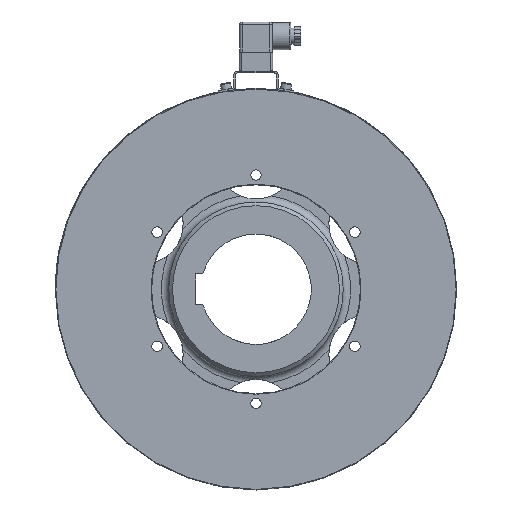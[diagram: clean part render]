
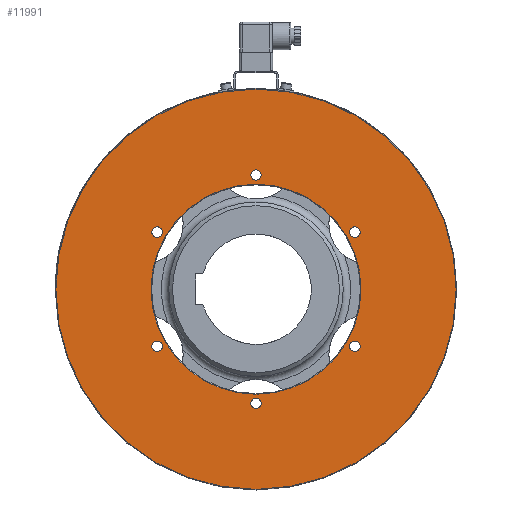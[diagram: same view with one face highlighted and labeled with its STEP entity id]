
A CAD part, left-side view. The second image highlights one B-rep face of the part: STEP entity #11991.
In plain terms, the highlighted planar face has unit normal (-1, 0, 0).
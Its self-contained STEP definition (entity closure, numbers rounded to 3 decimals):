
#151=FACE_BOUND('',#1273,.T.);
#152=FACE_BOUND('',#1274,.T.);
#153=FACE_BOUND('',#1275,.T.);
#154=FACE_BOUND('',#1276,.T.);
#155=FACE_BOUND('',#1277,.T.);
#156=FACE_BOUND('',#1278,.T.);
#157=FACE_BOUND('',#1279,.T.);
#323=PLANE('',#12799);
#627=FACE_OUTER_BOUND('',#1272,.T.);
#1272=EDGE_LOOP('',(#7962,#7963,#7964));
#1273=EDGE_LOOP('',(#7965,#7966));
#1274=EDGE_LOOP('',(#7967,#7968));
#1275=EDGE_LOOP('',(#7969,#7970));
#1276=EDGE_LOOP('',(#7971,#7972));
#1277=EDGE_LOOP('',(#7973,#7974));
#1278=EDGE_LOOP('',(#7975,#7976));
#1279=EDGE_LOOP('',(#7977));
#1957=CIRCLE('',#12563,163.);
#1958=CIRCLE('',#12564,163.);
#2009=CIRCLE('',#12676,163.);
#2100=CIRCLE('',#12773,85.5);
#2103=CIRCLE('',#12778,4.25);
#2104=CIRCLE('',#12779,4.25);
#2105=CIRCLE('',#12781,4.25);
#2106=CIRCLE('',#12782,4.25);
#2107=CIRCLE('',#12784,4.25);
#2108=CIRCLE('',#12785,4.25);
#2109=CIRCLE('',#12787,4.25);
#2110=CIRCLE('',#12788,4.25);
#2111=CIRCLE('',#12790,4.25);
#2112=CIRCLE('',#12791,4.25);
#2113=CIRCLE('',#12793,4.25);
#2114=CIRCLE('',#12794,4.25);
#4367=VERTEX_POINT('',#18381);
#4373=VERTEX_POINT('',#18393);
#4374=VERTEX_POINT('',#18395);
#4585=VERTEX_POINT('',#19141);
#4588=VERTEX_POINT('',#19151);
#4589=VERTEX_POINT('',#19152);
#4590=VERTEX_POINT('',#19157);
#4591=VERTEX_POINT('',#19158);
#4592=VERTEX_POINT('',#19163);
#4593=VERTEX_POINT('',#19164);
#4594=VERTEX_POINT('',#19169);
#4595=VERTEX_POINT('',#19170);
#4596=VERTEX_POINT('',#19175);
#4597=VERTEX_POINT('',#19176);
#4598=VERTEX_POINT('',#19181);
#4599=VERTEX_POINT('',#19182);
#5616=EDGE_CURVE('',#4374,#4373,#1957,.T.);
#5617=EDGE_CURVE('',#4367,#4374,#1958,.T.);
#5792=EDGE_CURVE('',#4373,#4367,#2009,.T.);
#5890=EDGE_CURVE('',#4585,#4585,#2100,.T.);
#5894=EDGE_CURVE('',#4588,#4589,#2103,.T.);
#5895=EDGE_CURVE('',#4589,#4588,#2104,.T.);
#5897=EDGE_CURVE('',#4590,#4591,#2105,.T.);
#5898=EDGE_CURVE('',#4591,#4590,#2106,.T.);
#5900=EDGE_CURVE('',#4592,#4593,#2107,.T.);
#5901=EDGE_CURVE('',#4593,#4592,#2108,.T.);
#5903=EDGE_CURVE('',#4594,#4595,#2109,.T.);
#5904=EDGE_CURVE('',#4595,#4594,#2110,.T.);
#5906=EDGE_CURVE('',#4596,#4597,#2111,.T.);
#5907=EDGE_CURVE('',#4597,#4596,#2112,.T.);
#5909=EDGE_CURVE('',#4598,#4599,#2113,.T.);
#5910=EDGE_CURVE('',#4599,#4598,#2114,.T.);
#7962=ORIENTED_EDGE('',*,*,#5616,.T.);
#7963=ORIENTED_EDGE('',*,*,#5792,.T.);
#7964=ORIENTED_EDGE('',*,*,#5617,.T.);
#7965=ORIENTED_EDGE('',*,*,#5909,.T.);
#7966=ORIENTED_EDGE('',*,*,#5910,.T.);
#7967=ORIENTED_EDGE('',*,*,#5906,.T.);
#7968=ORIENTED_EDGE('',*,*,#5907,.T.);
#7969=ORIENTED_EDGE('',*,*,#5903,.T.);
#7970=ORIENTED_EDGE('',*,*,#5904,.T.);
#7971=ORIENTED_EDGE('',*,*,#5900,.T.);
#7972=ORIENTED_EDGE('',*,*,#5901,.T.);
#7973=ORIENTED_EDGE('',*,*,#5897,.T.);
#7974=ORIENTED_EDGE('',*,*,#5898,.T.);
#7975=ORIENTED_EDGE('',*,*,#5894,.T.);
#7976=ORIENTED_EDGE('',*,*,#5895,.T.);
#7977=ORIENTED_EDGE('',*,*,#5890,.F.);
#11991=ADVANCED_FACE('',(#627,#151,#152,#153,#154,#155,#156,#157),#323,
 .T.);
#12563=AXIS2_PLACEMENT_3D('',#18396,#14293,#14294);
#12564=AXIS2_PLACEMENT_3D('',#18397,#14295,#14296);
#12676=AXIS2_PLACEMENT_3D('',#18915,#14619,#14620);
#12773=AXIS2_PLACEMENT_3D('',#19143,#14819,#14820);
#12778=AXIS2_PLACEMENT_3D('',#19153,#14830,#14831);
#12779=AXIS2_PLACEMENT_3D('',#19154,#14832,#14833);
#12781=AXIS2_PLACEMENT_3D('',#19159,#14837,#14838);
#12782=AXIS2_PLACEMENT_3D('',#19160,#14839,#14840);
#12784=AXIS2_PLACEMENT_3D('',#19165,#14844,#14845);
#12785=AXIS2_PLACEMENT_3D('',#19166,#14846,#14847);
#12787=AXIS2_PLACEMENT_3D('',#19171,#14851,#14852);
#12788=AXIS2_PLACEMENT_3D('',#19172,#14853,#14854);
#12790=AXIS2_PLACEMENT_3D('',#19177,#14858,#14859);
#12791=AXIS2_PLACEMENT_3D('',#19178,#14860,#14861);
#12793=AXIS2_PLACEMENT_3D('',#19183,#14865,#14866);
#12794=AXIS2_PLACEMENT_3D('',#19184,#14867,#14868);
#12799=AXIS2_PLACEMENT_3D('',#19192,#14878,#14879);
#14293=DIRECTION('center_axis',(-1.,0.,0.));
#14294=DIRECTION('ref_axis',(0.,1.,0.));
#14295=DIRECTION('center_axis',(-1.,0.,0.));
#14296=DIRECTION('ref_axis',(0.,1.,0.));
#14619=DIRECTION('center_axis',(-1.,0.,0.));
#14620=DIRECTION('ref_axis',(0.,1.,0.));
#14819=DIRECTION('center_axis',(-1.,0.,0.));
#14820=DIRECTION('ref_axis',(0.,-1.,0.));
#14830=DIRECTION('center_axis',(1.,0.,0.));
#14831=DIRECTION('ref_axis',(0.,0.,
1.));
#14832=DIRECTION('center_axis',(1.,0.,0.));
#14833=DIRECTION('ref_axis',(0.,0.,
1.));
#14837=DIRECTION('center_axis',(1.,0.,0.));
#14838=DIRECTION('ref_axis',(0.,0.,
1.));
#14839=DIRECTION('center_axis',(1.,0.,0.));
#14840=DIRECTION('ref_axis',(0.,0.,
1.));
#14844=DIRECTION('center_axis',(1.,0.,0.));
#14845=DIRECTION('ref_axis',(0.,0.,
1.));
#14846=DIRECTION('center_axis',(1.,0.,0.));
#14847=DIRECTION('ref_axis',(0.,0.,
1.));
#14851=DIRECTION('center_axis',(1.,0.,0.));
#14852=DIRECTION('ref_axis',(0.,0.,
1.));
#14853=DIRECTION('center_axis',(1.,0.,0.));
#14854=DIRECTION('ref_axis',(0.,0.,
1.));
#14858=DIRECTION('center_axis',(1.,0.,0.));
#14859=DIRECTION('ref_axis',(0.,0.,
1.));
#14860=DIRECTION('center_axis',(1.,0.,0.));
#14861=DIRECTION('ref_axis',(0.,0.,
1.));
#14865=DIRECTION('center_axis',(1.,0.,0.));
#14866=DIRECTION('ref_axis',(0.,0.,
1.));
#14867=DIRECTION('center_axis',(1.,0.,0.));
#14868=DIRECTION('ref_axis',(0.,0.,
1.));
#14878=DIRECTION('center_axis',(-1.,0.,0.));
#14879=DIRECTION('ref_axis',(0.,0.,
1.));
#18381=CARTESIAN_POINT('',(-33.8,28.305,160.524));
#18393=CARTESIAN_POINT('',(-33.8,-163.,0.));
#18395=CARTESIAN_POINT('',(-33.8,163.,0.));
#18396=CARTESIAN_POINT('Origin',(-33.8,0.,0.));
#18397=CARTESIAN_POINT('Origin',(-33.8,0.,0.));
#18915=CARTESIAN_POINT('Origin',(-33.8,0.,0.));
#19141=CARTESIAN_POINT('',(-33.8,85.5,0.));
#19143=CARTESIAN_POINT('Origin',(-33.8,0.,0.));
#19151=CARTESIAN_POINT('',(-33.8,-80.54,50.75));
#19152=CARTESIAN_POINT('',(-33.8,-80.54,42.25));
#19153=CARTESIAN_POINT('Origin',(-33.8,-80.54,46.5));
#19154=CARTESIAN_POINT('Origin',(-33.8,-80.54,46.5));
#19157=CARTESIAN_POINT('',(-33.8,0.,-88.75));
#19158=CARTESIAN_POINT('',(-33.8,0.,-97.25));
#19159=CARTESIAN_POINT('Origin',(-33.8,0.,-93.));
#19160=CARTESIAN_POINT('Origin',(-33.8,0.,-93.));
#19163=CARTESIAN_POINT('',(-33.8,80.54,50.75));
#19164=CARTESIAN_POINT('',(-33.8,80.54,42.25));
#19165=CARTESIAN_POINT('Origin',(-33.8,80.54,46.5));
#19166=CARTESIAN_POINT('Origin',(-33.8,80.54,46.5));
#19169=CARTESIAN_POINT('',(-33.8,0.,97.25));
#19170=CARTESIAN_POINT('',(-33.8,0.,88.75));
#19171=CARTESIAN_POINT('Origin',(-33.8,0.,93.));
#19172=CARTESIAN_POINT('Origin',(-33.8,0.,93.));
#19175=CARTESIAN_POINT('',(-33.8,80.54,-42.25));
#19176=CARTESIAN_POINT('',(-33.8,80.54,-50.75));
#19177=CARTESIAN_POINT('Origin',(-33.8,80.54,-46.5));
#19178=CARTESIAN_POINT('Origin',(-33.8,80.54,-46.5));
#19181=CARTESIAN_POINT('',(-33.8,-80.54,-42.25));
#19182=CARTESIAN_POINT('',(-33.8,-80.54,-50.75));
#19183=CARTESIAN_POINT('Origin',(-33.8,-80.54,-46.5));
#19184=CARTESIAN_POINT('Origin',(-33.8,-80.54,-46.5));
#19192=CARTESIAN_POINT('Origin',(-33.8,124.,0.));
